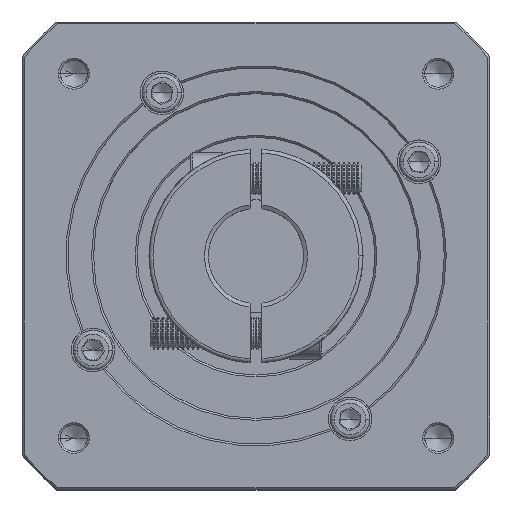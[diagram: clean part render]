
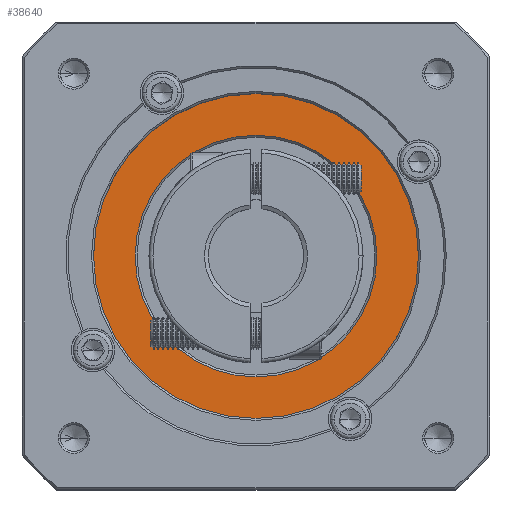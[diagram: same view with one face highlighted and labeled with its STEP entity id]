
A CAD part, top view. The second image highlights one B-rep face of the part: STEP entity #38640.
In plain terms, the highlighted planar face has unit normal (0, 0, 1).
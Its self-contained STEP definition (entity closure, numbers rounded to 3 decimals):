
#4319 = DIRECTION ( 'NONE',  ( 0., 0., 1. ) ) ;
#6324 = ORIENTED_EDGE ( 'NONE', *, *, #11528, .T. ) ;
#9646 = EDGE_LOOP ( 'NONE', ( #15132, #6324 ) ) ;
#9944 = VERTEX_POINT ( 'NONE', #116070 ) ;
#11528 = EDGE_CURVE ( 'NONE', #51870, #9944, #85817, .T. ) ;
#13064 = VERTEX_POINT ( 'NONE', #75845 ) ;
#15132 = ORIENTED_EDGE ( 'NONE', *, *, #84715, .T. ) ;
#38355 = CIRCLE ( 'NONE', #78250, 30.5 ) ;
#38640 = ADVANCED_FACE ( 'NONE', ( #57139, #79255 ), #64616, .T. ) ;
#42414 = CARTESIAN_POINT ( 'NONE',  ( 69.096, 120.823, 36.003 ) ) ;
#47456 = AXIS2_PLACEMENT_3D ( 'NONE', #47647, #113736, #57096 ) ;
#47647 = CARTESIAN_POINT ( 'NONE',  ( 69.096, 90.323, 36.003 ) ) ;
#49738 = DIRECTION ( 'NONE',  ( 0., 0., 1. ) ) ;
#51870 = VERTEX_POINT ( 'NONE', #42414 ) ;
#55438 = CARTESIAN_POINT ( 'NONE',  ( 69.096, 90.323, 36.003 ) ) ;
#55973 = CARTESIAN_POINT ( 'NONE',  ( 69.096, 90.323, 36.003 ) ) ;
#57096 = DIRECTION ( 'NONE',  ( 1., 0., 0. ) ) ;
#57139 = FACE_OUTER_BOUND ( 'NONE', #93906, .T. ) ;
#58702 = ORIENTED_EDGE ( 'NONE', *, *, #96272, .T. ) ;
#61012 = CARTESIAN_POINT ( 'NONE',  ( 69.096, 90.323, 36.003 ) ) ;
#61652 = AXIS2_PLACEMENT_3D ( 'NONE', #61012, #4319, #70471 ) ;
#64616 = PLANE ( 'NONE',  #86163 ) ;
#64932 = DIRECTION ( 'NONE',  ( 0., -1., 0. ) ) ;
#65448 = DIRECTION ( 'NONE',  ( 0., -1., 0. ) ) ;
#69264 = CARTESIAN_POINT ( 'NONE',  ( 110.096, 90.323, 36.003 ) ) ;
#70471 = DIRECTION ( 'NONE',  ( 1., 0., 0. ) ) ;
#70544 = CIRCLE ( 'NONE', #47456, 41. ) ;
#75845 = CARTESIAN_POINT ( 'NONE',  ( 28.096, 90.323, 36.003 ) ) ;
#78250 = AXIS2_PLACEMENT_3D ( 'NONE', #55438, #121634, #64932 ) ;
#79255 = FACE_BOUND ( 'NONE', #9646, .T. ) ;
#84715 = EDGE_CURVE ( 'NONE', #9944, #51870, #38355, .T. ) ;
#85817 = CIRCLE ( 'NONE', #121902, 30.5 ) ;
#86163 = AXIS2_PLACEMENT_3D ( 'NONE', #106288, #49738, #115796 ) ;
#89613 = CIRCLE ( 'NONE', #61652, 41. ) ;
#93906 = EDGE_LOOP ( 'NONE', ( #58702, #115622 ) ) ;
#96272 = EDGE_CURVE ( 'NONE', #117074, #13064, #89613, .T. ) ;
#106288 = CARTESIAN_POINT ( 'NONE',  ( 69.096, 90.323, 36.003 ) ) ;
#113736 = DIRECTION ( 'NONE',  ( 0., 0., 1. ) ) ;
#115622 = ORIENTED_EDGE ( 'NONE', *, *, #118105, .T. ) ;
#115796 = DIRECTION ( 'NONE',  ( 1., 0., 0. ) ) ;
#116070 = CARTESIAN_POINT ( 'NONE',  ( 69.096, 59.823, 36.003 ) ) ;
#117074 = VERTEX_POINT ( 'NONE', #69264 ) ;
#118105 = EDGE_CURVE ( 'NONE', #13064, #117074, #70544, .T. ) ;
#121634 = DIRECTION ( 'NONE',  ( 0., 0., -1. ) ) ;
#121902 = AXIS2_PLACEMENT_3D ( 'NONE', #55973, #122160, #65448 ) ;
#122160 = DIRECTION ( 'NONE',  ( 0., 0., -1. ) ) ;
